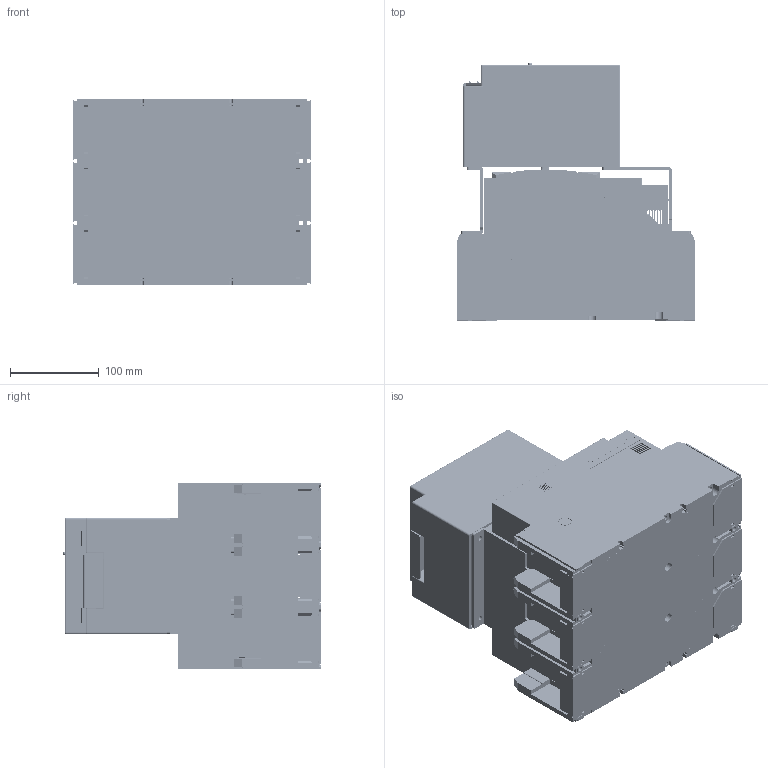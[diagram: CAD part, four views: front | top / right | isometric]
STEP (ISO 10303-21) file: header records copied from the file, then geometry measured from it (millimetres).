
FILE_DESCRIPTION (( 'STEP AP214' ), '1' );
FILE_NAME ('PRO.KVANT_S1-1600S,H–3P+KVA000143-000148STEP.STEP', '2024-10-09T04:07:35', ( '' ), ( '' ), 'SwSTEP 2.0', 'SolidWorks 2018', '' );
FILE_SCHEMA (( 'AUTOMOTIVE_DESIGN' ));
Length unit declared in the file: millimetre
Products named in the file (1): PRO.KVANT_S1-1600S,H–3P+KVA000143-000148STEP
Bounding box: 268 x 289.25 x 210 mm (x, y, z)
Volume: 2879842.7 mm3; surface area: 1437231.4 mm2
Topology: 50 solids, 51 shells, 6664 faces, 18892 edges, 12498 vertices
Faces by surface type: plane 5348, cylinder 1130, bspline 71, cone 67, torus 34, sphere 14
Full cylindrical faces by diameter (mm): 1 x8, 2 x1, 2.4 x15, 2.5 x3, 2.6 x2, 3 x3, 3.4 x1, 3.5 x23, 4 x35, 4.2 x10, 4.3 x1, 4.5 x10, 4.8 x6, 5 x29, 5.2 x14, 5.4 x12, 6 x23, 6.2 x6, 6.4 x12, 6.5 x5, 7 x4, 7.6 x1, 7.7 x14, 8 x7, 8.2 x14, 8.5 x6, 9 x2, 10 x22, 11 x13, 11.5 x1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
Entity records: 290605 total; most frequent: CARTESIAN_POINT 43841, ORIENTED_EDGE 36662, DIRECTION 33541, EDGE_CURVE 18331, LINE 15407, VECTOR 15407, VERTEX_POINT 12358, AXIS2_PLACEMENT_3D 9067
